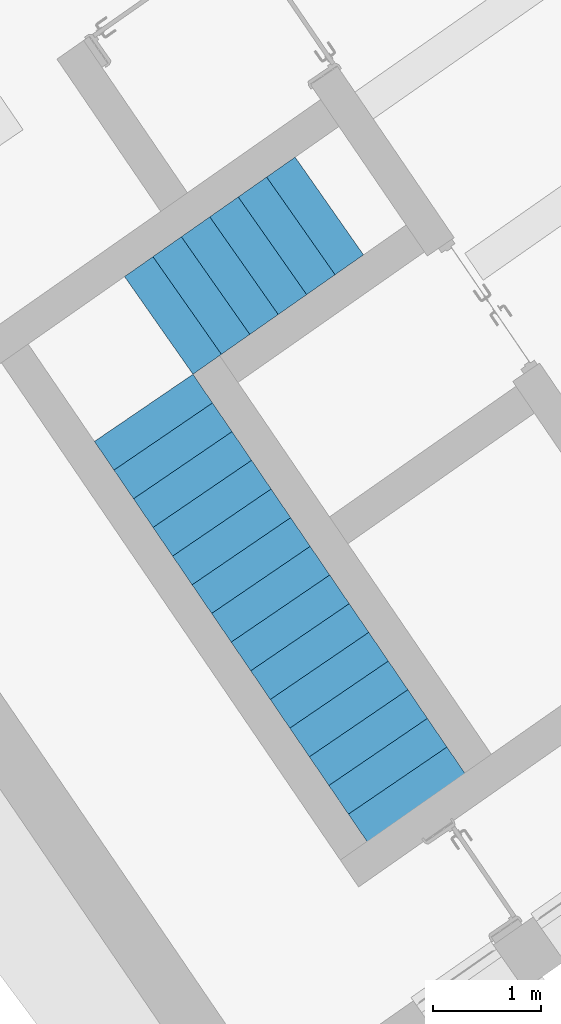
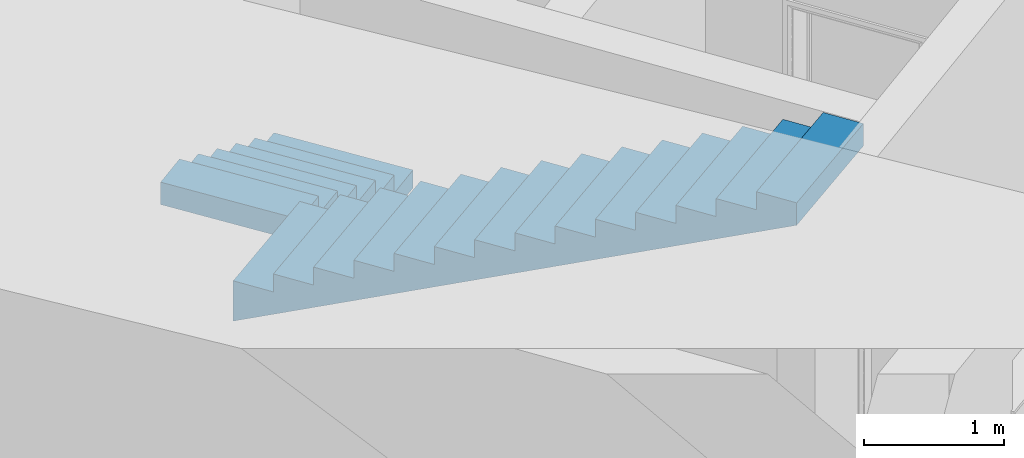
# One storey, part 109 of 112: 2 stair flights, 1 element without a shape of its own.
"""IFC2X3 building model written with IfcOpenShell, lengths in millimetres."""

from ifc_helpers import new_model, entity, si_unit, converted_unit, derived_unit, direction, frame, origin, place, context, subcontext, project, spatial, faceted_brep, material, material_list, type_object, element, aggregate, save


model = new_model("IFC2X3")

# Units and contexts
model_context = context("Model", 3, precision=0.01, world=origin(), true_north=direction((6.123031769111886e-17, 1.0)))
body_context = subcontext(model_context, "Body", "Model", "MODEL_VIEW")
ifc_project = project(units=[si_unit("LENGTHUNIT", "METRE", prefix="MILLI"), si_unit("AREAUNIT", "SQUARE_METRE"), si_unit("VOLUMEUNIT", "CUBIC_METRE"), converted_unit("PLANEANGLEUNIT", "DEGREE", entity("IfcRatioMeasure", 0.017453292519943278), si_unit("PLANEANGLEUNIT", "RADIAN"), dimensions=[0, 0, 0, 0, 0, 0, 0]), si_unit("MASSUNIT", "GRAM", prefix="KILO"), derived_unit("MASSDENSITYUNIT", [(si_unit("MASSUNIT", "GRAM", prefix="KILO"), 1), (si_unit("LENGTHUNIT", "METRE"), -3)]), derived_unit("MOMENTOFINERTIAUNIT", [(si_unit("LENGTHUNIT", "METRE"), 4)]), si_unit("TIMEUNIT", "SECOND"), si_unit("FREQUENCYUNIT", "HERTZ"), si_unit("THERMODYNAMICTEMPERATUREUNIT", "DEGREE_CELSIUS"), derived_unit("THERMALTRANSMITTANCEUNIT", [(si_unit("MASSUNIT", "GRAM", prefix="KILO"), 1), (si_unit("THERMODYNAMICTEMPERATUREUNIT", "KELVIN"), -1), (si_unit("TIMEUNIT", "SECOND"), -3)]), derived_unit("THERMALCONDUCTANCEUNIT", [(si_unit("MASSUNIT", "GRAM", prefix="KILO"), 1), (si_unit("LENGTHUNIT", "METRE"), 1), (si_unit("THERMODYNAMICTEMPERATUREUNIT", "KELVIN"), -1), (si_unit("TIMEUNIT", "SECOND"), -3)]), derived_unit("VOLUMETRICFLOWRATEUNIT", [(si_unit("LENGTHUNIT", "METRE"), 3), (si_unit("TIMEUNIT", "SECOND"), -1)]), derived_unit("MASSFLOWRATEUNIT", [(si_unit("MASSUNIT", "GRAM", prefix="KILO"), 1), (si_unit("TIMEUNIT", "SECOND"), -1)]), derived_unit("ROTATIONALFREQUENCYUNIT", [(si_unit("TIMEUNIT", "SECOND"), -1)]), si_unit("ELECTRICCURRENTUNIT", "AMPERE"), si_unit("ELECTRICVOLTAGEUNIT", "VOLT"), si_unit("POWERUNIT", "WATT"), converted_unit("FORCEUNIT", "KIP", entity("IfcRatioMeasure", 2.088543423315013e-05), si_unit("FORCEUNIT", "NEWTON"), dimensions=[1, 1, -2, 0, 0, 0, 0]), si_unit("ILLUMINANCEUNIT", "LUX"), si_unit("LUMINOUSFLUXUNIT", "LUMEN"), si_unit("LUMINOUSINTENSITYUNIT", "CANDELA"), derived_unit("USERDEFINED", [(si_unit("MASSUNIT", "GRAM", prefix="KILO"), -1), (si_unit("LENGTHUNIT", "METRE"), -2), (si_unit("TIMEUNIT", "SECOND"), 3), (si_unit("LUMINOUSFLUXUNIT", "LUMEN"), 1)]), derived_unit("USERDEFINED", [(si_unit("MASSUNIT", "GRAM", prefix="KILO"), 1), (si_unit("LENGTHUNIT", "METRE"), 3), (si_unit("TIMEUNIT", "SECOND"), -3), (si_unit("ELECTRICCURRENTUNIT", "AMPERE"), -2)]), derived_unit("USERDEFINED", [(si_unit("LENGTHUNIT", "METRE"), 2), (si_unit("TIMEUNIT", "SECOND"), -2)]), derived_unit("SOUNDPOWERUNIT", [(si_unit("MASSUNIT", "GRAM", prefix="KILO"), 1), (si_unit("LENGTHUNIT", "METRE"), 2), (si_unit("TIMEUNIT", "SECOND"), -3)]), derived_unit("SOUNDPRESSUREUNIT", [(si_unit("MASSUNIT", "GRAM", prefix="KILO"), 1), (si_unit("LENGTHUNIT", "METRE"), -1), (si_unit("TIMEUNIT", "SECOND"), -2)]), derived_unit("LINEARVELOCITYUNIT", [(si_unit("LENGTHUNIT", "METRE"), 1), (si_unit("TIMEUNIT", "SECOND"), -1)]), si_unit("PRESSUREUNIT", "PASCAL"), derived_unit("USERDEFINED", [(si_unit("LENGTHUNIT", "METRE"), -2), (si_unit("MASSUNIT", "GRAM", prefix="KILO"), 1), (si_unit("TIMEUNIT", "SECOND"), -2)]), derived_unit("LINEARFORCEUNIT", [(si_unit("MASSUNIT", "GRAM", prefix="KILO"), 1), (si_unit("LENGTHUNIT", "METRE"), 1), (si_unit("TIMEUNIT", "SECOND"), -2), (si_unit("LENGTHUNIT", "METRE"), -1)]), derived_unit("PLANARFORCEUNIT", [(si_unit("MASSUNIT", "GRAM", prefix="KILO"), 1), (si_unit("LENGTHUNIT", "METRE"), 1), (si_unit("TIMEUNIT", "SECOND"), -2), (si_unit("LENGTHUNIT", "METRE"), -2)]), derived_unit("SPECIFICHEATCAPACITYUNIT", [(si_unit("LENGTHUNIT", "METRE"), 2), (si_unit("TIMEUNIT", "SECOND"), -2), (si_unit("THERMODYNAMICTEMPERATUREUNIT", "KELVIN"), -1)]), derived_unit("VAPORPERMEABILITYUNIT", [(si_unit("TIMEUNIT", "SECOND"), 1), (si_unit("LENGTHUNIT", "METRE"), -1)]), derived_unit("DYNAMICVISCOSITYUNIT", [(si_unit("MASSUNIT", "GRAM", prefix="KILO"), 1), (si_unit("LENGTHUNIT", "METRE"), -1), (si_unit("TIMEUNIT", "SECOND"), -1)]), derived_unit("THERMALEXPANSIONCOEFFICIENTUNIT", [(si_unit("THERMODYNAMICTEMPERATUREUNIT", "KELVIN"), -1)])], contexts=[model_context])

# Site, building, storey
site_placement = place(None, frame((0.0, 0.0, 0.0), z_axis=(0.0, 0.0, 1.0), x_axis=(0.8191520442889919, 0.5735764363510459, 0.0)))
site = spatial("IfcSite", under=ifc_project, at=site_placement, Name="Default", CompositionType="ELEMENT")
building_placement = place(site_placement, origin())
building = spatial("IfcBuilding", under=site, at=building_placement, CompositionType="ELEMENT")
storey_placement = place(building_placement, frame((0.0, 0.0, -3600.0)))
storey = spatial("IfcBuildingStorey", under=building, at=storey_placement, Name="0.UG -3.60", CompositionType="ELEMENT", Elevation=-3600.0000000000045)

# Stair, stair flights
stair_placement = place(storey_placement, origin())
stair = element("IfcStair", 1, at=stair_placement, inside=storey, Name="Precast Stair:Stair", ObjectType="Precast Stair:Stair_CJC_KH", ShapeType="NOTDEFINED")
ifc_material_1 = material(Name="Concrete, Cast-in-Place gray")
ifc_material_2 = material(Name="Analytical Wall Surface_CJC")
ifc_material_list = material_list([ifc_material_1, ifc_material_2])
stair_flight_type = type_object("IfcStairFlightType", Name="Monolithic Run:1mm_Tread-175mm_Depth", PredefinedType="STRAIGHT")
stair_flight_1_placement = place(stair_placement, frame((-220201.50411654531, 58471.358914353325, 0.0)))
stair_flight_1 = element("IfcStairFlight", 2, at=stair_flight_1_placement, type_object=stair_flight_type, material=ifc_material_list, Name="Precast Stair:Stair:623226 Run 1", ObjectType="Monolithic Run:1mm_Tread-175mm_Depth", NumberOfRiser=7, NumberOfTreads=6, RiserHeight=0.5155605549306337, TreadLength=1.0498687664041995, context=body_context, shape_type="Brep", body=[
    faceted_brep([(1600.0, 0.0, 457.1428571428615), (1920.0, 0.0, 457.1428571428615), (1920.0, 1100.0, 457.1428571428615), (1600.0, 1100.0, 457.1428571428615), (1600.0, 0.0, 456.1428571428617), (1600.0, 1100.0, 456.1428571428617), (1920.0, 1100.0, 456.1428571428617), (1920.0, 0.0, 456.1428571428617)], [[[0, 1, 2, 3]], [[4, 5, 6, 7]], [[1, 0, 4, 7]], [[2, 1, 7, 6]], [[3, 2, 6, 5]], [[0, 3, 5, 4]]]),
    faceted_brep([(1280.0, 0.0, 614.2857142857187), (1600.0, 0.0, 614.2857142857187), (1600.0, 1100.0, 614.2857142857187), (1280.0, 1100.0, 614.2857142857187), (1280.0, 0.0, 613.2857142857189), (1280.0, 1100.0, 613.2857142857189), (1600.0, 1100.0, 613.2857142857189), (1600.0, 0.0, 613.2857142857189)], [[[0, 1, 2, 3]], [[4, 5, 6, 7]], [[1, 0, 4, 7]], [[2, 1, 7, 6]], [[3, 2, 6, 5]], [[0, 3, 5, 4]]]),
    faceted_brep([(960.0, 0.0, 771.4285714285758), (1280.0, 0.0, 771.4285714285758), (1280.0, 1100.0, 771.4285714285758), (960.0, 1100.0, 771.4285714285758), (960.0, 0.0, 770.428571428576), (960.0, 1100.0, 770.428571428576), (1280.0, 1100.0, 770.428571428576), (1280.0, 0.0, 770.428571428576)], [[[0, 1, 2, 3]], [[4, 5, 6, 7]], [[1, 0, 4, 7]], [[2, 1, 7, 6]], [[3, 2, 6, 5]], [[0, 3, 5, 4]]]),
    faceted_brep([(640.0, 0.0, 928.571428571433), (960.0, 0.0, 928.571428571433), (960.0, 1100.0, 928.571428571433), (640.0, 1100.0, 928.571428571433), (640.0, 0.0, 927.5714285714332), (640.0, 1100.0, 927.5714285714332), (960.0, 1100.0, 927.5714285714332), (960.0, 0.0, 927.5714285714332)], [[[0, 1, 2, 3]], [[4, 5, 6, 7]], [[1, 0, 4, 7]], [[2, 1, 7, 6]], [[3, 2, 6, 5]], [[0, 3, 5, 4]]]),
    faceted_brep([(320.0, 0.0, 1085.71428571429), (640.0, 0.0, 1085.71428571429), (640.0, 1100.0, 1085.71428571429), (320.0, 1100.0, 1085.71428571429), (320.0, 0.0, 1084.7142857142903), (320.0, 1100.0, 1084.7142857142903), (640.0, 1100.0, 1084.7142857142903), (640.0, 0.0, 1084.7142857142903)], [[[0, 1, 2, 3]], [[4, 5, 6, 7]], [[1, 0, 4, 7]], [[2, 1, 7, 6]], [[3, 2, 6, 5]], [[0, 3, 5, 4]]]),
    faceted_brep([(0.0, 0.0, 1242.857142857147), (320.0, 0.0, 1242.857142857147), (320.0, 1100.0, 1242.857142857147), (0.0, 1100.0, 1242.857142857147), (0.0, 0.0, 1241.8571428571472), (0.0, 1100.0, 1241.8571428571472), (320.0, 1100.0, 1241.8571428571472), (320.0, 0.0, 1241.8571428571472)], [[[0, 1, 2, 3]], [[4, 5, 6, 7]], [[1, 0, 4, 7]], [[2, 1, 7, 6]], [[3, 2, 6, 5]], [[0, 3, 5, 4]]]),
    faceted_brep([(1600.0, 0.0, 456.1428571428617), (1920.0, 0.0, 456.1428571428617), (1920.0, 1100.0, 456.1428571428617), (1600.0, 1100.0, 456.1428571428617), (1600.0, 0.0, 300.0), (1920.0, 0.0, 300.0), (1920.0, 1100.0, 300.0), (1600.0, 1100.0, 300.0), (1280.0, 0.0, 613.2857142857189), (1600.0, 0.0, 613.2857142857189), (1600.0, 1100.0, 613.2857142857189), (1280.0, 1100.0, 613.2857142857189), (1280.0, 0.0, 418.32352844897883), (1520.9497306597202, 0.0, 300.0), (1520.9497306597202, 1100.0, 300.0), (1280.0, 1100.0, 418.3235284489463), (960.0, 0.0, 770.428571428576), (1280.0, 0.0, 770.428571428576), (1280.0, 1100.0, 770.428571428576), (960.0, 1100.0, 770.428571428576), (960.0, 0.0, 575.4663855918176), (960.0, 1100.0, 575.4663855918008), (640.0, 0.0, 927.5714285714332), (960.0, 0.0, 927.5714285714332), (960.0, 1100.0, 927.5714285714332), (640.0, 1100.0, 927.5714285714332), (640.0, 0.0, 732.6092427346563), (640.0, 1100.0, 732.6092427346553), (320.0, 0.0, 1084.7142857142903), (640.0, 0.0, 1084.7142857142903), (640.0, 1100.0, 1084.7142857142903), (320.0, 1100.0, 1084.7142857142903), (320.0, 0.0, 889.752099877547), (320.0, 1100.0, 889.7520998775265), (0.0, 0.0, 1241.8571428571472), (320.0, 0.0, 1241.8571428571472), (320.0, 1100.0, 1241.8571428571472), (0.0, 1100.0, 1241.8571428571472), (0.0, 0.0, 1046.8949570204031), (0.0, 1100.0, 1046.8949570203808)], [[[0, 1, 2, 3]], [[1, 0, 4, 5]], [[2, 1, 5, 6]], [[3, 2, 6, 7]], [[8, 9, 10, 11]], [[4, 0, 9, 8, 12, 13]], [[0, 3, 10, 9]], [[3, 7, 14, 15, 11, 10]], [[16, 17, 18, 19]], [[17, 16, 20, 12, 8]], [[8, 11, 18, 17]], [[19, 18, 11, 15, 21]], [[22, 23, 24, 25]], [[23, 22, 26, 20, 16]], [[16, 19, 24, 23]], [[25, 24, 19, 21, 27]], [[28, 29, 30, 31]], [[29, 28, 32, 26, 22]], [[22, 25, 30, 29]], [[31, 30, 25, 27, 33]], [[34, 35, 36, 37]], [[35, 34, 38, 32, 28]], [[28, 31, 36, 35]], [[37, 36, 31, 33, 39]], [[34, 37, 39, 38]], [[5, 4, 13, 14, 7, 6]], [[14, 13, 12, 20, 26, 32, 38, 39, 33, 27, 21, 15]]]),
])
stair_flight_2_placement = place(stair_placement, frame((-221358.4538395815, 53991.31754258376, 0.0)))
stair_flight_2 = element("IfcStairFlight", 3, at=stair_flight_2_placement, type_object=stair_flight_type, material=ifc_material_list, Name="Precast Stair:Stair:623226 Run 2", ObjectType="Monolithic Run:1mm_Tread-175mm_Depth", NumberOfRiser=15, NumberOfTreads=14, RiserHeight=0.5155605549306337, TreadLength=1.0498687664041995, context=body_context, shape_type="Brep", body=[
    faceted_brep([(1152.8659577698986, 4159.662938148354, 1400.0), (1156.939425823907, 4479.63701031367, 1400.0), (57.028552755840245, 4493.6395567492, 1400.0), (52.95508470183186, 4173.665484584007, 1400.0), (1152.8659577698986, 4159.662938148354, 1399.0), (52.95508470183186, 4173.665484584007, 1399.0), (57.028552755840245, 4493.6395567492, 1399.0), (1156.939425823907, 4479.63701031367, 1399.0)], [[[0, 1, 2, 3]], [[4, 5, 6, 7]], [[1, 0, 4, 7]], [[2, 1, 7, 6]], [[3, 2, 6, 5]], [[0, 3, 5, 4]]]),
    faceted_brep([(1148.7924897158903, 3839.6888659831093, 1557.1428571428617), (1152.8659577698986, 4159.662938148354, 1557.1428571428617), (52.95508470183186, 4173.665484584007, 1557.1428571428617), (48.88161664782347, 3853.691412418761, 1557.1428571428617), (1148.7924897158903, 3839.6888659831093, 1556.1428571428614), (48.88161664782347, 3853.691412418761, 1556.1428571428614), (52.95508470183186, 4173.665484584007, 1556.1428571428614), (1152.8659577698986, 4159.662938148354, 1556.1428571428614)], [[[0, 1, 2, 3]], [[4, 5, 6, 7]], [[1, 0, 4, 7]], [[2, 1, 7, 6]], [[3, 2, 6, 5]], [[0, 3, 5, 4]]]),
    faceted_brep([(1144.7190216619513, 3519.714793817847, 1714.2857142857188), (1148.7924897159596, 3839.688865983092, 1714.2857142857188), (48.88161664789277, 3853.6914124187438, 1714.2857142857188), (44.80814859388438, 3533.717340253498, 1714.2857142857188), (1144.7190216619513, 3519.714793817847, 1713.2857142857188), (44.80814859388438, 3533.717340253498, 1713.2857142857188), (48.88161664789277, 3853.6914124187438, 1713.2857142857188), (1148.7924897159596, 3839.688865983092, 1713.2857142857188)], [[[0, 1, 2, 3]], [[4, 5, 6, 7]], [[1, 0, 4, 7]], [[2, 1, 7, 6]], [[3, 2, 6, 5]], [[0, 3, 5, 4]]]),
    faceted_brep([(1140.6455536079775, 3199.740721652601, 1871.4285714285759), (1144.7190216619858, 3519.714793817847, 1871.4285714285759), (44.808148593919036, 3533.717340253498, 1871.4285714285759), (40.73468053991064, 3213.743268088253, 1871.4285714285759), (1140.6455536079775, 3199.740721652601, 1870.4285714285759), (40.73468053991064, 3213.743268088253, 1870.4285714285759), (44.808148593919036, 3533.717340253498, 1870.4285714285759), (1144.7190216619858, 3519.714793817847, 1870.4285714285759)], [[[0, 1, 2, 3]], [[4, 5, 6, 7]], [[1, 0, 4, 7]], [[2, 1, 7, 6]], [[3, 2, 6, 5]], [[0, 3, 5, 4]]]),
    faceted_brep([(1136.5720855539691, 2879.7666494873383, 2028.571428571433), (1140.6455536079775, 3199.740721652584, 2028.571428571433), (40.73468053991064, 3213.7432680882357, 2028.571428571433), (36.661212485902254, 2893.76919592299, 2028.571428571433), (1136.5720855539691, 2879.7666494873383, 2027.571428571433), (36.661212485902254, 2893.76919592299, 2027.571428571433), (40.73468053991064, 3213.7432680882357, 2027.571428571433), (1140.6455536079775, 3199.740721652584, 2027.571428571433)], [[[0, 1, 2, 3]], [[4, 5, 6, 7]], [[1, 0, 4, 7]], [[2, 1, 7, 6]], [[3, 2, 6, 5]], [[0, 3, 5, 4]]]),
    faceted_brep([(1132.4986174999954, 2559.7925773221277, 2185.7142857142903), (1136.5720855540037, 2879.7666494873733, 2185.7142857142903), (36.66121248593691, 2893.7691959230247, 2185.7142857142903), (32.58774443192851, 2573.7951237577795, 2185.7142857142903), (1132.4986174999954, 2559.7925773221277, 2184.7142857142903), (32.58774443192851, 2573.7951237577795, 2184.7142857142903), (36.66121248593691, 2893.7691959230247, 2184.7142857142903), (1136.5720855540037, 2879.7666494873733, 2184.7142857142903)], [[[0, 1, 2, 3]], [[4, 5, 6, 7]], [[1, 0, 4, 7]], [[2, 1, 7, 6]], [[3, 2, 6, 5]], [[0, 3, 5, 4]]]),
    faceted_brep([(1128.425149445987, 2239.818505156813, 2342.857142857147), (1132.4986174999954, 2559.7925773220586, 2342.857142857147), (32.58774443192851, 2573.7951237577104, 2342.857142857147), (28.514276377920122, 2253.8210515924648, 2342.857142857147), (1128.425149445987, 2239.818505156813, 2341.857142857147), (28.514276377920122, 2253.8210515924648, 2341.857142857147), (32.58774443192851, 2573.7951237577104, 2341.857142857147), (1132.4986174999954, 2559.7925773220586, 2341.857142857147)], [[[0, 1, 2, 3]], [[4, 5, 6, 7]], [[1, 0, 4, 7]], [[2, 1, 7, 6]], [[3, 2, 6, 5]], [[0, 3, 5, 4]]]),
    faceted_brep([(1124.3516813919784, 1919.8444329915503, 2500.0), (1128.425149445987, 2239.8185051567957, 2500.0), (28.514276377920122, 2253.8210515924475, 2500.0), (24.440808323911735, 1933.846979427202, 2500.0), (1124.3516813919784, 1919.8444329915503, 2499.0), (24.440808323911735, 1933.846979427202, 2499.0), (28.514276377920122, 2253.8210515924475, 2499.0), (1128.425149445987, 2239.8185051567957, 2499.0)], [[[0, 1, 2, 3]], [[4, 5, 6, 7]], [[1, 0, 4, 7]], [[2, 1, 7, 6]], [[3, 2, 6, 5]], [[0, 3, 5, 4]]]),
    faceted_brep([(1120.2782133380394, 1599.8703608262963, 2657.1428571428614), (1124.3516813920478, 1919.8444329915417, 2657.1428571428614), (24.440808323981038, 1933.8469794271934, 2657.1428571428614), (20.367340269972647, 1613.872907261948, 2657.1428571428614), (1120.2782133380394, 1599.8703608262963, 2656.142857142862), (20.367340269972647, 1613.872907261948, 2656.142857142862), (24.440808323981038, 1933.8469794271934, 2656.142857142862), (1124.3516813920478, 1919.8444329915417, 2656.142857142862)], [[[0, 1, 2, 3]], [[4, 5, 6, 7]], [[1, 0, 4, 7]], [[2, 1, 7, 6]], [[3, 2, 6, 5]], [[0, 3, 5, 4]]]),
    faceted_brep([(1116.204745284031, 1279.8962886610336, 2814.2857142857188), (1120.2782133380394, 1599.870360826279, 2814.2857142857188), (20.367340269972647, 1613.8729072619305, 2814.2857142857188), (16.293872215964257, 1293.8988350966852, 2814.2857142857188), (1116.204745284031, 1279.8962886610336, 2813.285714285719), (16.293872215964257, 1293.8988350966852, 2813.285714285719), (20.367340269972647, 1613.8729072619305, 2813.285714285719), (1120.2782133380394, 1599.870360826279, 2813.285714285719)], [[[0, 1, 2, 3]], [[4, 5, 6, 7]], [[1, 0, 4, 7]], [[2, 1, 7, 6]], [[3, 2, 6, 5]], [[0, 3, 5, 4]]]),
    faceted_brep([(1112.1312772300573, 959.9222164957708, 2971.428571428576), (1116.2047452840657, 1279.8962886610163, 2971.428571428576), (16.29387221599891, 1293.8988350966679, 2971.428571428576), (12.220404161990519, 973.9247629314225, 2971.428571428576), (1112.1312772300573, 959.9222164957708, 2970.428571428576), (12.220404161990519, 973.9247629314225, 2970.428571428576), (16.29387221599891, 1293.8988350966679, 2970.428571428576), (1116.2047452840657, 1279.8962886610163, 2970.428571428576)], [[[0, 1, 2, 3]], [[4, 5, 6, 7]], [[1, 0, 4, 7]], [[2, 1, 7, 6]], [[3, 2, 6, 5]], [[0, 3, 5, 4]]]),
    faceted_brep([(1108.0578091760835, 639.9481443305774, 3128.571428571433), (1112.1312772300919, 959.9222164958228, 3128.571428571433), (12.22040416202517, 973.9247629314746, 3128.571428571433), (8.14693610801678, 653.9506907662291, 3128.571428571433), (1108.0578091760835, 639.9481443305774, 3127.5714285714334), (8.14693610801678, 653.9506907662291, 3127.5714285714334), (12.22040416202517, 973.9247629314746, 3127.5714285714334), (1112.1312772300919, 959.9222164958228, 3127.5714285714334)], [[[0, 1, 2, 3]], [[4, 5, 6, 7]], [[1, 0, 4, 7]], [[2, 1, 7, 6]], [[3, 2, 6, 5]], [[0, 3, 5, 4]]]),
    faceted_brep([(1103.9843411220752, 319.9740721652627, 3285.7142857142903), (1108.0578091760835, 639.9481443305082, 3285.7142857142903), (8.14693610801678, 653.9506907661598, 3285.7142857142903), (4.07346805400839, 333.9766186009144, 3285.7142857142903), (1103.9843411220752, 319.9740721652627, 3284.7142857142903), (4.07346805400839, 333.9766186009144, 3284.7142857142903), (8.14693610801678, 653.9506907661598, 3284.7142857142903), (1108.0578091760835, 639.9481443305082, 3284.7142857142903)], [[[0, 1, 2, 3]], [[4, 5, 6, 7]], [[1, 0, 4, 7]], [[2, 1, 7, 6]], [[3, 2, 6, 5]], [[0, 3, 5, 4]]]),
    faceted_brep([(1099.9108730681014, 0.0, 3442.857142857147), (1103.9843411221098, 319.9740721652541, 3442.857142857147), (4.073468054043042, 333.97661860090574, 3442.857142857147), (0.0, 14.002546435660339, 3442.857142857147), (1099.9108730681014, 0.0, 3441.8571428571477), (0.0, 14.002546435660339, 3441.8571428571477), (4.073468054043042, 333.97661860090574, 3441.8571428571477), (1103.9843411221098, 319.9740721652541, 3441.8571428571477)], [[[0, 1, 2, 3]], [[4, 5, 6, 7]], [[1, 0, 4, 7]], [[2, 1, 7, 6]], [[3, 2, 6, 5]], [[0, 3, 5, 4]]]),
    faceted_brep([(1152.8659577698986, 4159.662938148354, 1399.0), (1156.939425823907, 4479.63701031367, 1399.0), (57.028552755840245, 4493.6395567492, 1399.0), (52.95508470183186, 4173.665484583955, 1399.0), (1152.8659577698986, 4159.6629381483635, 1204.0378141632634), (1156.939425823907, 4479.63701031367, 1046.8949570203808), (57.028552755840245, 4493.6395567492, 1046.8949570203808), (52.95508470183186, 4173.665484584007, 1204.037814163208), (1148.7924897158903, 3839.6888659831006, 1556.1428571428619), (1152.8659577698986, 4159.662938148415, 1556.1428571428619), (52.95508470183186, 4173.665484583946, 1556.1428571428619), (48.88161664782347, 3853.6914124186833, 1556.1428571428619), (1148.7924897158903, 3839.6888659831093, 1361.1806713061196), (48.88161664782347, 3853.6914124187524, 1361.1806713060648), (1144.7190216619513, 3519.714793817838, 1713.285714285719), (1148.7924897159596, 3839.688865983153, 1713.285714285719), (48.88161664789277, 3853.6914124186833, 1713.285714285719), (44.808148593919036, 3533.7173402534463, 1713.285714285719), (1144.7190216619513, 3519.714793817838, 1518.3235284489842), (44.80814859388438, 3533.7173402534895, 1518.3235284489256), (1140.6455536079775, 3199.7407216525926, 1870.428571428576), (1144.7190216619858, 3519.7147938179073, 1870.428571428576), (44.808148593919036, 3533.7173402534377, 1870.428571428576), (40.73468053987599, 3213.743268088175, 1870.428571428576), (1140.6455536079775, 3199.740721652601, 1675.4663855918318), (40.73468053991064, 3213.7432680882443, 1675.4663855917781), (1136.5720855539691, 2879.7666494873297, 2027.5714285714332), (1140.6455536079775, 3199.7407216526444, 2027.5714285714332), (40.73468053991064, 3213.743268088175, 2027.5714285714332), (36.6612124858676, 2893.769195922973, 2027.5714285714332), (1136.5720855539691, 2879.7666494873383, 1832.6092427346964), (36.661212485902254, 2893.7691959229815, 1832.609242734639), (1132.4986174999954, 2559.792577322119, 2184.7142857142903), (1136.5720855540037, 2879.766649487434, 2184.7142857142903), (36.66121248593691, 2893.769195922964, 2184.7142857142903), (32.58774443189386, 2573.795123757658, 2184.7142857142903), (1132.4986174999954, 2559.7925773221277, 1989.7520998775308), (32.58774443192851, 2573.795123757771, 1989.7520998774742), (1128.425149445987, 2239.8185051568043, 2341.8571428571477), (1132.4986174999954, 2559.792577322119, 2341.8571428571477), (32.58774443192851, 2573.7951237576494, 2341.8571428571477), (28.514276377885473, 2253.821051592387, 2341.8571428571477), (1128.425149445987, 2239.818505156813, 2146.894957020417), (28.514276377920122, 2253.821051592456, 2146.894957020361), (1124.3516813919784, 1919.8444329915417, 2499.0), (1128.425149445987, 2239.818505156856, 2499.0), (28.514276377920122, 2253.821051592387, 2499.0), (24.440808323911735, 1933.8469794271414, 2499.0), (1124.3516813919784, 1919.8444329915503, 2304.0378141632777), (24.440808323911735, 1933.8469794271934, 2304.0378141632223), (1120.2782133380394, 1599.8703608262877, 2656.142857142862), (1124.3516813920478, 1919.8444329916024, 2656.142857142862), (24.440808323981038, 1933.8469794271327, 2656.142857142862), (20.367340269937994, 1613.8729072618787, 2656.142857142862), (1120.2782133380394, 1599.8703608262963, 2461.1806713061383), (20.367340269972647, 1613.8729072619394, 2461.1806713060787), (1116.204745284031, 1279.896288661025, 2813.285714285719), (1120.2782133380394, 1599.8703608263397, 2813.285714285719), (20.367340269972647, 1613.87290726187, 2813.285714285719), (16.293872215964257, 1293.8988350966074, 2813.285714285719), (1116.204745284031, 1279.8962886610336, 2618.3235284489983), (16.293872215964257, 1293.8988350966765, 2618.32352844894), (1112.1312772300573, 959.9222164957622, 2970.428571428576), (1116.2047452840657, 1279.8962886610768, 2970.428571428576), (16.29387221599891, 1293.8988350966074, 2970.428571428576), (12.220404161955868, 973.9247629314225, 2970.428571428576), (1112.1312772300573, 959.9222164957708, 2775.466385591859), (12.220404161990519, 973.9247629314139, 2775.466385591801), (1108.0578091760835, 639.9481443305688, 3127.5714285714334), (1112.1312772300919, 959.9222164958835, 3127.5714285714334), (12.22040416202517, 973.9247629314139, 3127.5714285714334), (8.146936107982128, 653.9506907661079, 3127.5714285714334), (1108.0578091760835, 639.9481443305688, 2932.609242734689), (8.14693610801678, 653.9506907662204, 2932.609242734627), (1103.9843411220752, 319.9740721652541, 3284.7142857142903), (1108.0578091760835, 639.9481443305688, 3284.7142857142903), (8.14693610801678, 653.9506907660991, 3284.7142857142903), (4.07346805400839, 333.9766186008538, 3284.7142857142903), (1103.9843411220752, 319.9740721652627, 3089.752099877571), (4.07346805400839, 333.97661860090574, 3089.752099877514), (1099.9108730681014, 0.0, 3441.8571428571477), (1103.9843411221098, 319.9740721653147, 3441.8571428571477), (4.073468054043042, 333.9766186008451, 3441.8571428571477), (0.0, 14.002546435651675, 3441.8571428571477), (1099.9108730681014, 0.0, 3246.8949570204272), (0.0, 14.002546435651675, 3246.894957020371)], [[[0, 1, 2, 3]], [[1, 0, 4, 5]], [[2, 1, 5, 6]], [[3, 2, 6, 7]], [[8, 9, 10, 11]], [[9, 8, 12, 4, 0]], [[10, 9, 0, 3]], [[11, 10, 3, 7, 13]], [[14, 15, 16, 17]], [[15, 14, 18, 12, 8]], [[16, 15, 8, 11]], [[17, 16, 11, 13, 19]], [[20, 21, 22, 23]], [[21, 20, 24, 18, 14]], [[22, 21, 14, 17]], [[23, 22, 17, 19, 25]], [[26, 27, 28, 29]], [[27, 26, 30, 24, 20]], [[28, 27, 20, 23]], [[29, 28, 23, 25, 31]], [[32, 33, 34, 35]], [[33, 32, 36, 30, 26]], [[34, 33, 26, 29]], [[35, 34, 29, 31, 37]], [[38, 39, 40, 41]], [[39, 38, 42, 36, 32]], [[40, 39, 32, 35]], [[41, 40, 35, 37, 43]], [[44, 45, 46, 47]], [[45, 44, 48, 42, 38]], [[46, 45, 38, 41]], [[47, 46, 41, 43, 49]], [[50, 51, 52, 53]], [[51, 50, 54, 48, 44]], [[52, 51, 44, 47]], [[53, 52, 47, 49, 55]], [[56, 57, 58, 59]], [[57, 56, 60, 54, 50]], [[58, 57, 50, 53]], [[59, 58, 53, 55, 61]], [[62, 63, 64, 65]], [[63, 62, 66, 60, 56]], [[64, 63, 56, 59]], [[65, 64, 59, 61, 67]], [[68, 69, 70, 71]], [[69, 68, 72, 66, 62]], [[70, 69, 62, 65]], [[71, 70, 65, 67, 73]], [[74, 75, 76, 77]], [[75, 74, 78, 72, 68]], [[76, 75, 68, 71]], [[77, 76, 71, 73, 79]], [[80, 81, 82, 83]], [[81, 80, 84, 78, 74]], [[82, 81, 74, 77]], [[83, 82, 77, 79, 85]], [[80, 83, 85, 84]], [[5, 4, 12, 18, 24, 30, 36, 42, 48, 54, 60, 66, 72, 78, 84, 85, 79, 73, 67, 61, 55, 49, 43, 37, 31, 25, 19, 13, 7, 6]]]),
])
aggregate(stair, [stair_flight_1, stair_flight_2])

save(model, "model.ifc")
